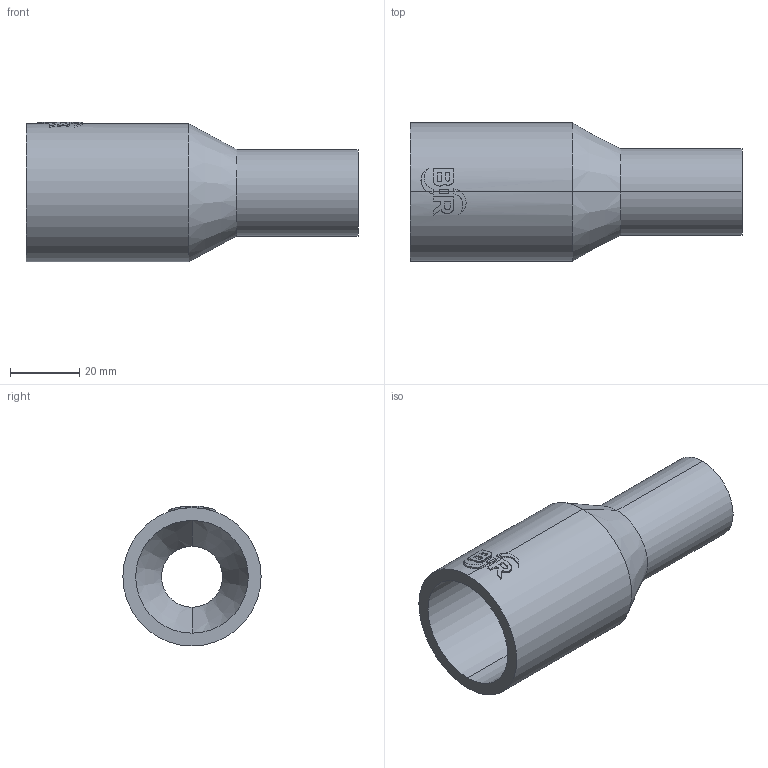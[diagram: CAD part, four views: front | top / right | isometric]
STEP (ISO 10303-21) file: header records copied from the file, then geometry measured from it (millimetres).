
FILE_DESCRIPTION (( 'STEP AP214' ), '1' );
FILE_NAME ('2323090715.STEP', '2018-07-20T10:52:30', ( '' ), ( '' ), 'SwSTEP 2.0', 'SolidWorks 2017', '' );
FILE_SCHEMA (( 'AUTOMOTIVE_DESIGN' ));
Length unit declared in the file: millimetre
Products named in the file (1): 2323090715
Bounding box: 96 x 40 x 40.46 mm (x, y, z)
Volume: 33762.5 mm3; surface area: 18958.1 mm2
Topology: 1 solids, 1 shells, 63 faces, 160 edges, 104 vertices
Faces by surface type: cylinder 31, plane 28, cone 4
Entity records: 2967 total; most frequent: CARTESIAN_POINT 758, ORIENTED_EDGE 320, DIRECTION 296, EDGE_CURVE 160, AXIS2_PLACEMENT_3D 112, VERTEX_POINT 104, VECTOR 72, LINE 72
